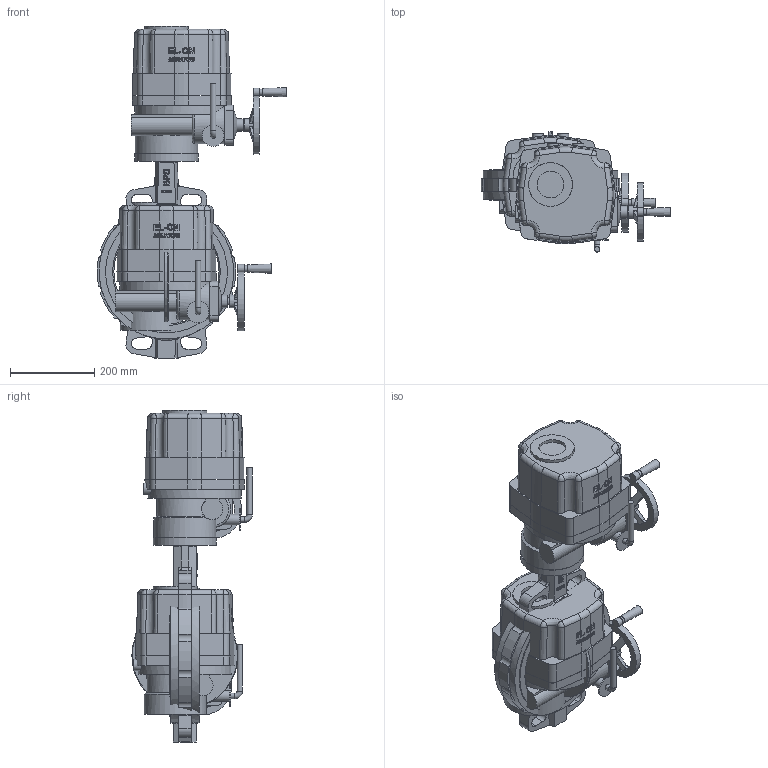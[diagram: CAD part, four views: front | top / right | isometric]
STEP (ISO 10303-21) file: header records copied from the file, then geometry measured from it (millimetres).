
FILE_DESCRIPTION( ( 'Unknown' ), '1' );
FILE_NAME( 'R:/ECCUA/ROOTSI BPS 3D vidinad/Poordklapid Wafer type/Butterfly valve(wafer) with electric actuator BPS/STEP formaat/BPS 2303250E(R) butterfly valve DN250.stp', 'Unknown', ( 'Unknown' ), ( 'Unknown' ), 'PSStep 10.1', 'Unknown', ' ' );
FILE_SCHEMA( ( 'AUTOMOTIVE_DESIGN { 1 0 10303 214 1 1 1 1 }' ) );
Length unit declared in the file: millimetre
Products named in the file (3): Assem1; Butterfly valve wafer type DN250 BPS; BPS 8005300-500 electric actuator DN200-350
Bounding box: 450.6 x 286 x 789 mm (x, y, z)
Volume: 30795267.2 mm3; surface area: 1761596.5 mm2
Topology: 4 solids, 4 shells, 1078 faces, 2834 edges, 1838 vertices
Faces by surface type: plane 408, cylinder 306, bspline 126, cone 96, extrusion 96, torus 30, sphere 16
Full cylindrical faces by diameter (mm): 8.376 x16, 10.106 x16, 13 x12, 15 x2, 18 x2, 25 x2, 27 x4, 30 x4, 35 x2, 52 x2, 64 x2, 104 x2, 106 x2, 134 x2, 148 x2, 150 x2, 250 x2, 290 x4, 320 x4
Entity records: 31688 total; most frequent: CARTESIAN_POINT 15207, ORIENTED_EDGE 2632, DIRECTION 2146, EDGE_CURVE 1316, VERTEX_POINT 896, AXIS2_PLACEMENT_3D 801, EDGE_LOOP 676, FACE_OUTER_BOUND 587
